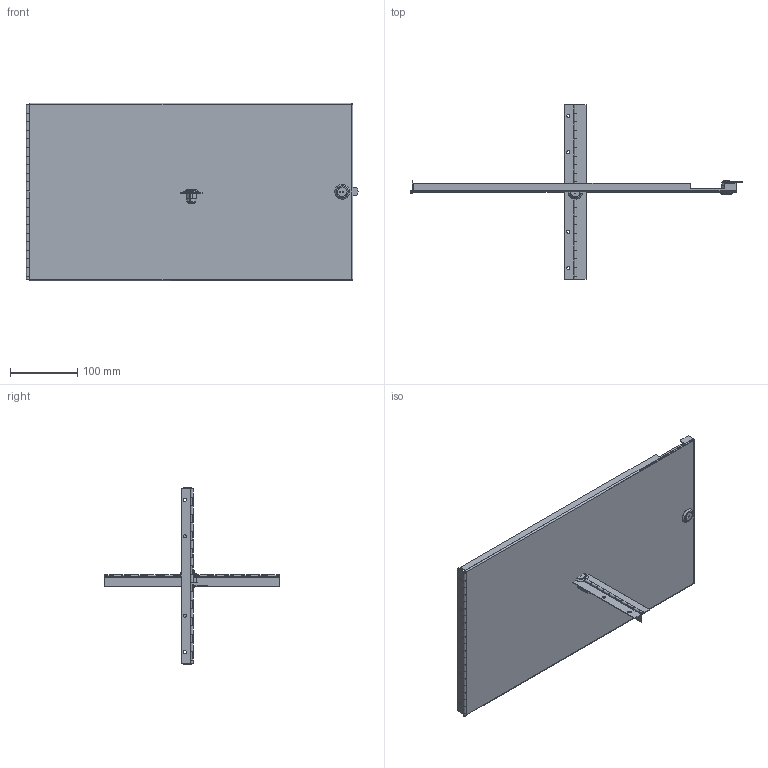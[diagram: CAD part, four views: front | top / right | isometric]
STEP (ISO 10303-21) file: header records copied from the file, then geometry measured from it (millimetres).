
FILE_DESCRIPTION( ( 'Unknown' ), '1' );
FILE_NAME( 'Q:/RCHS/WEB DRAWINGS/STEP/RCHD1910.stp', 'Unknown', ( 'Unknown' ), ( 'Unknown' ), 'XStep 1.0', 'Unknown', ' ' );
FILE_SCHEMA( ( 'CONFIG_CONTROL_DESIGN' ) );
Length unit declared in the file: millimetre
Products named in the file (7): Assem1; Assem2; Assem3; 1; 2; 3; 4
Bounding box: 492.23 x 258.78 x 263.52 mm (x, y, z)
Volume: 648783.1 mm3; surface area: 925772.2 mm2
Topology: 13 solids, 13 shells, 810 faces, 2286 edges, 1512 vertices
Faces by surface type: plane 526, cylinder 270, bspline 12, cone 2
Full cylindrical faces by diameter (mm): 4.775 x16, 8.382 x2, 13.868 x2, 13.97 x2, 21.996 x2
Entity records: 7818 total; most frequent: CARTESIAN_POINT 1445, ORIENTED_EDGE 1268, DIRECTION 1250, EDGE_CURVE 634, LINE 476, VECTOR 476, VERTEX_POINT 422, AXIS2_PLACEMENT_3D 387
